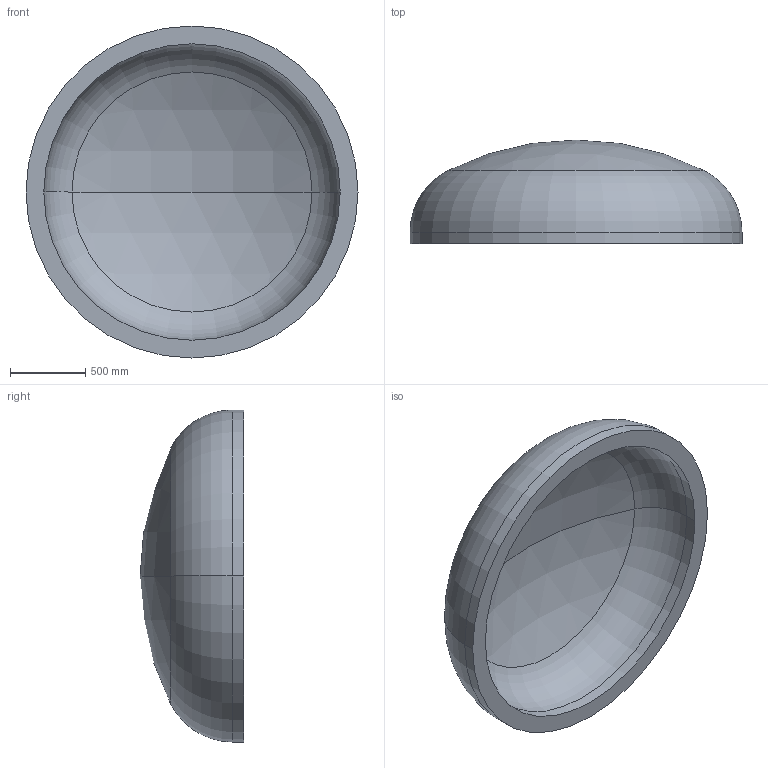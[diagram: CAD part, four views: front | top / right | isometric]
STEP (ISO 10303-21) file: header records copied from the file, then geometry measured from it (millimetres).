
FILE_DESCRIPTION (( 'STEP AP203' ), '1' );
FILE_NAME ('DIN 28013 Korbbogenform_-_Boden DIN 28013 - 2200 x 75 - I - s=118.step', '2016-07-01T14:59:27', ( '' ), ( '' ), 'SwSTEP 2.0', 'SolidWorks 2013', '' );
FILE_SCHEMA (( 'CONFIG_CONTROL_DESIGN' ));
Length unit declared in the file: millimetre
Products named in the file (1): DIN 28013 Korbbogenform_-_Boden DIN 28013 - 2200 x 75 - I - s=118
Bounding box: 2200 x 686.42 x 2200 mm (x, y, z)
Volume: 638293744 mm3; surface area: 11619511.3 mm2
Topology: 1 solids, 1 shells, 13 faces, 24 edges, 14 vertices
Faces by surface type: torus 4, cylinder 4, sphere 4, plane 1
Entity records: 407 total; most frequent: DIRECTION 72, CARTESIAN_POINT 52, ORIENTED_EDGE 48, AXIS2_PLACEMENT_3D 34, EDGE_CURVE 24, CIRCLE 20, VERTEX_POINT 14, EDGE_LOOP 14
